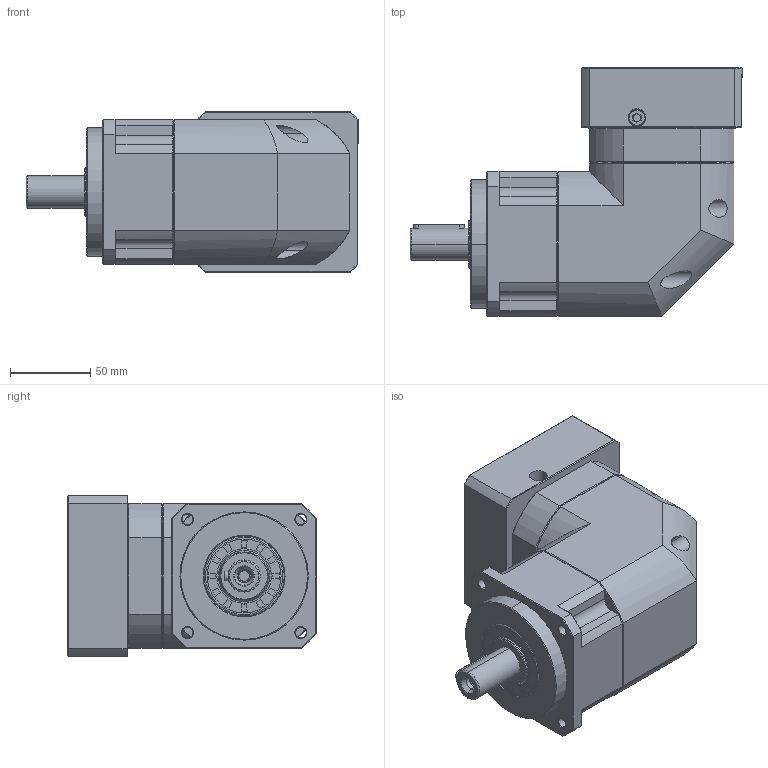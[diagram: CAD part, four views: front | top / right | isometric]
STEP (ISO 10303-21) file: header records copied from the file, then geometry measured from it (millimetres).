
FILE_DESCRIPTION (( 'STEP AP214' ), '1' );
FILE_NAME ('ZPBR090-D20-L1-P1-19-95-115-M8.step', '2024-06-07T18:29:29', ( 'Windows 蚚誧' ), ( 'Organization' ), 'SwSTEP 2.0', 'SolidWorks 2016', '' );
FILE_SCHEMA (( 'AUTOMOTIVE_DESIGN' ));
Length unit declared in the file: millimetre
Products named in the file (1): ZPBR090-D20-L1-P1-19-95-115-M8
Bounding box: 207 x 155 x 100 mm (x, y, z)
Surface area: 147444.9 mm2 (no closed solid volume)
Topology: 0 solids, 32 shells, 1817 faces, 4938 edges, 3177 vertices
Faces by surface type: plane 971, bspline 373, cone 240, cylinder 216, torus 17
Entity records: 93458 total; most frequent: CARTESIAN_POINT 47039, ORIENTED_EDGE 9696, DIRECTION 7533, EDGE_CURVE 4884, VECTOR 3245, LINE 3245, VERTEX_POINT 3144, AXIS2_PLACEMENT_3D 2144
